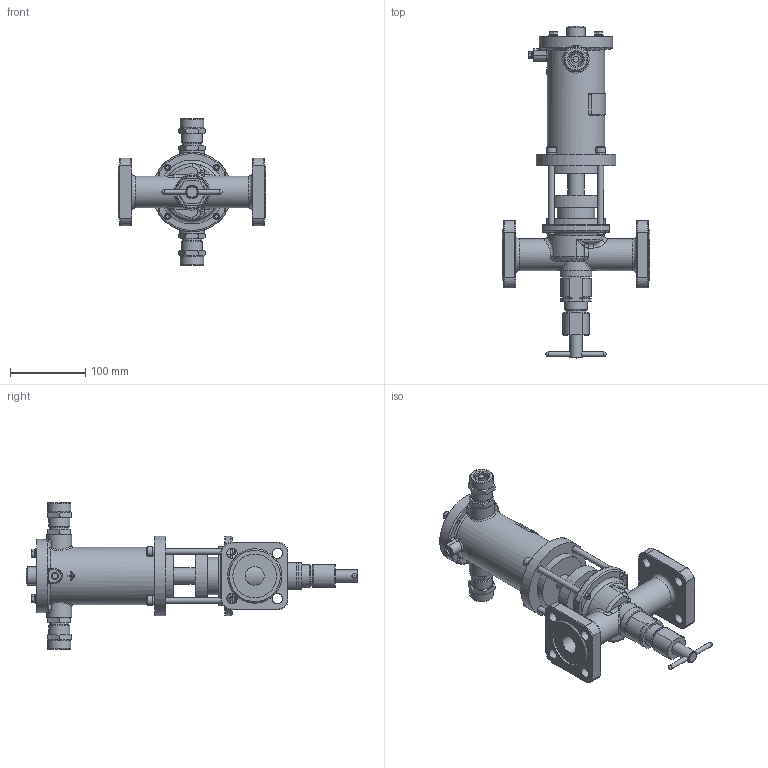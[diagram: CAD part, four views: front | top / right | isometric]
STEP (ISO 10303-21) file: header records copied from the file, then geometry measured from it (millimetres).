
FILE_DESCRIPTION(('STEP AP203'), '1');
FILE_NAME('ÑÅÍÑ DN25PN25-Â-200Ñ-ÑÂ.stp', '2018-09-19T08:48:17', ('Îðëîâ Å.Â.'), ('ÎÎÎ ÍÏÏ Ñåíñîð'), 'ASCON STEP Converter 1.3', 'Kompas 3D', '');
FILE_SCHEMA(('CONFIG_CONTROL_DESIGN','SUPPORT_RESOURCE_SCHEMA'));
Length unit declared in the file: millimetre
Products named in the file (1): 60
Bounding box: 196 x 440.5 x 194 mm (x, y, z)
Volume: 1175729.8 mm3; surface area: 349538.4 mm2
Topology: 3 solids, 20 shells, 2007 faces, 5293 edges, 3430 vertices
Faces by surface type: cylinder 1019, plane 733, cone 130, torus 57, bspline 50, extrusion 16, sphere 2
Full cylindrical faces by diameter (mm): 3.5 x2, 4.134 x1, 4.917 x4, 5 x1, 6 x14, 6.5 x4, 8 x12, 8.2 x1, 9 x5, 10 x1, 11 x1, 12 x4, 13 x6, 14 x8, 16 x3, 17 x2, 18 x1, 18.632 x2, 19.9 x1, 20 x3, 22 x3, 22.376 x2, 23 x1, 23.5 x2, 24 x3, 24.5 x2, 25 x2, 26 x4, 26.376 x2, 27.8 x1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
Entity records: 77650 total; most frequent: CARTESIAN_POINT 26887, DIRECTION 10999, ORIENTED_EDGE 10544, EDGE_CURVE 5272, AXIS2_PLACEMENT_3D 4243, VERTEX_POINT 3430, VECTOR 2513, LINE 2497
